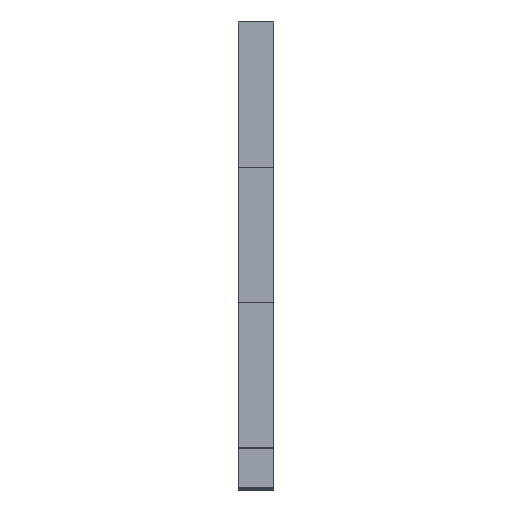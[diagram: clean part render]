
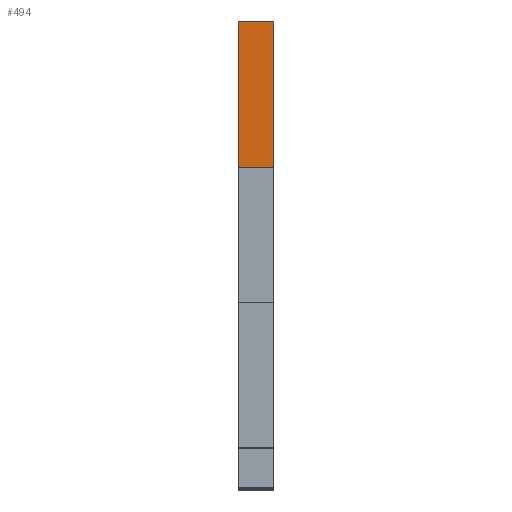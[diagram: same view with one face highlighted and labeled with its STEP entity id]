
A CAD part, top view. The second image highlights one B-rep face of the part: STEP entity #494.
In plain terms, the highlighted planar face has unit normal (0, 0, 1).
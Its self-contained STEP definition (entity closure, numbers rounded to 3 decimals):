
#9 = CARTESIAN_POINT ( 'NONE',  ( 0., 4.775, 47.3 ) ) ;
#22 = CARTESIAN_POINT ( 'NONE',  ( 2.5, 15., 47.3 ) ) ;
#24 = DIRECTION ( 'NONE',  ( 0., 0., -1. ) ) ;
#92 = ORIENTED_EDGE ( 'NONE', *, *, #666, .F. ) ;
#119 = AXIS2_PLACEMENT_3D ( 'NONE', #128, #24, #368 ) ;
#128 = CARTESIAN_POINT ( 'NONE',  ( 2.5, 0., 47.3 ) ) ;
#131 = VECTOR ( 'NONE', #429, 1000. ) ;
#143 = ORIENTED_EDGE ( 'NONE', *, *, #948, .T. ) ;
#148 = LINE ( 'NONE', #222, #984 ) ;
#174 = VERTEX_POINT ( 'NONE', #461 ) ;
#191 = CARTESIAN_POINT ( 'NONE',  ( 2.5, 4.775, 47.3 ) ) ;
#194 = CARTESIAN_POINT ( 'NONE',  ( 2.5, 15., 47.3 ) ) ;
#222 = CARTESIAN_POINT ( 'NONE',  ( 2.5, 0., 47.3 ) ) ;
#316 = ORIENTED_EDGE ( 'NONE', *, *, #897, .F. ) ;
#337 = VECTOR ( 'NONE', #433, 1000. ) ;
#346 = LINE ( 'NONE', #696, #1087 ) ;
#366 = EDGE_LOOP ( 'NONE', ( #143, #316, #92, #712 ) ) ;
#368 = DIRECTION ( 'NONE',  ( 0., 1., 0. ) ) ;
#423 = VERTEX_POINT ( 'NONE', #194 ) ;
#429 = DIRECTION ( 'NONE',  ( -1., 0., 0. ) ) ;
#433 = DIRECTION ( 'NONE',  ( -1., 0., 0. ) ) ;
#448 = DIRECTION ( 'NONE',  ( 0., -1., 0. ) ) ;
#461 = CARTESIAN_POINT ( 'NONE',  ( 0., 15., 47.3 ) ) ;
#494 = ADVANCED_FACE ( 'NONE', ( #990 ), #562, .F. ) ;
#562 = PLANE ( 'NONE',  #119 ) ;
#612 = CARTESIAN_POINT ( 'NONE',  ( 2.5, 4.775, 47.3 ) ) ;
#666 = EDGE_CURVE ( 'NONE', #423, #989, #148, .T. ) ;
#696 = CARTESIAN_POINT ( 'NONE',  ( 0., 0., 47.3 ) ) ;
#712 = ORIENTED_EDGE ( 'NONE', *, *, #905, .T. ) ;
#739 = VERTEX_POINT ( 'NONE', #9 ) ;
#781 = LINE ( 'NONE', #612, #337 ) ;
#897 = EDGE_CURVE ( 'NONE', #989, #739, #781, .T. ) ;
#905 = EDGE_CURVE ( 'NONE', #423, #174, #1032, .T. ) ;
#926 = DIRECTION ( 'NONE',  ( 0., -1., 0. ) ) ;
#948 = EDGE_CURVE ( 'NONE', #174, #739, #346, .T. ) ;
#984 = VECTOR ( 'NONE', #926, 1000. ) ;
#989 = VERTEX_POINT ( 'NONE', #191 ) ;
#990 = FACE_OUTER_BOUND ( 'NONE', #366, .T. ) ;
#1032 = LINE ( 'NONE', #22, #131 ) ;
#1087 = VECTOR ( 'NONE', #448, 1000. ) ;
